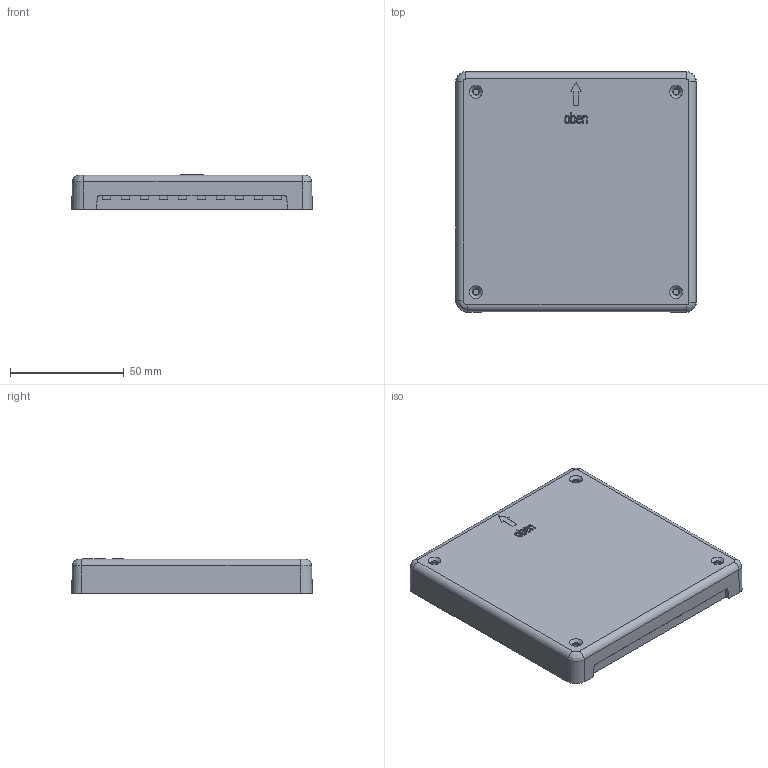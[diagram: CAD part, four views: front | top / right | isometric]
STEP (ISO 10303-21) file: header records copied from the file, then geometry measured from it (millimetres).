
FILE_DESCRIPTION(/* description */ (''),/* implementation_level */ '2;1');
FILE_NAME(/* name */ '2000428.stp',/* time_stamp */ '2019-06-12T07:05:53+02:00',/* author */ (''),/* organization */ (''),/* preprocessor_version */ 'ST-DEVELOPER v16.7',/* originating_system */ 'SIEMENS PLM Software NX 12.0',/* authorisation */ '');
FILE_SCHEMA (('AUTOMOTIVE_DESIGN { 1 0 10303 214 3 1 1 1 }'));
Length unit declared in the file: millimetre
Products named in the file (1): p.sc256824D8ywvc
Bounding box: 105.72 x 105.72 x 15.2 mm (x, y, z)
Volume: 154181.6 mm3; surface area: 41503.5 mm2
Topology: 1 solids, 1 shells, 199 faces, 525 edges, 344 vertices
Faces by surface type: plane 98, cylinder 56, cone 22, extrusion 12, bspline 6, torus 5
Full cylindrical faces by diameter (mm): 2.5 x4, 3.2 x4
Entity records: 6691 total; most frequent: CARTESIAN_POINT 1754, ORIENTED_EDGE 1016, DIRECTION 994, EDGE_CURVE 508, VERTEX_POINT 342, AXIS2_PLACEMENT_3D 335, VECTOR 324, LINE 312
